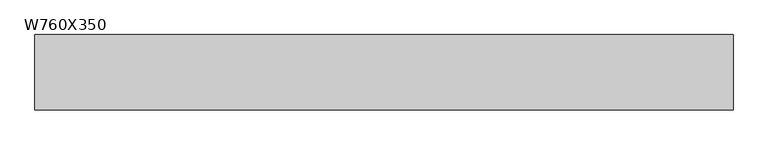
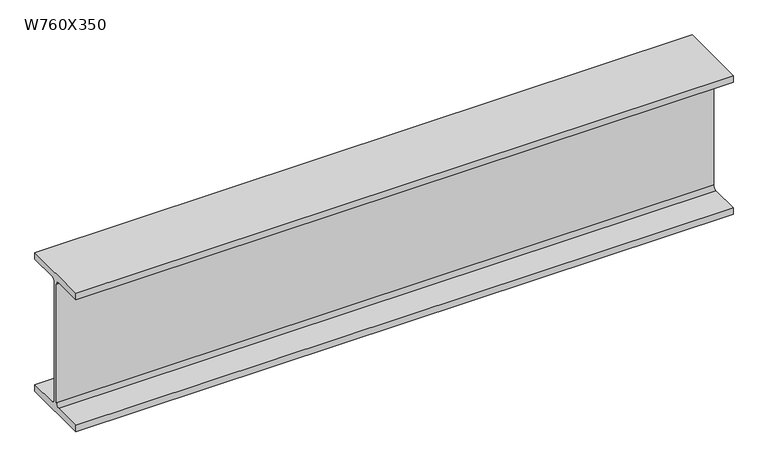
"""IFC4 building model written with IfcOpenShell, lengths in millimetres: beam geometry, M_W Shapes : W760X350."""

import ifcopenshell
import ifcopenshell.guid

model = None  # the IFC model being written
_history = None  # IfcOwnerHistory: only IFC2X3 demands one
_inside = {}  # id of a spatial element -> (the spatial element, [elements in it])
_under = {}  # id of a project, library or spatial element -> (it, [spatial elements below it])
_declared = {}  # id of a project -> (the project, [libraries it declares])
_typed = {}  # id of a type object -> (the type object, [elements of that type])
_made_of = {}  # id of a material, layer set ... -> (it, [elements and type objects made of it])


def new_model(schema):
    """Start an empty IFC model of exactly this schema.

    Asked for "IFC4X3", IfcOpenShell would pick the latest addendum, in which some entities
    have other attributes; the version numbers below select the first issue.
    IFC2X3 requires an IfcOwnerHistory on every rooted entity: one is made here for all.
    """
    global model, _history
    if schema == "IFC4X3":
        model = ifcopenshell.file(schema_version=(4, 3, 0, 0))
    else:
        model = ifcopenshell.file(schema=schema)
    _inside.clear()
    _under.clear()
    _declared.clear()
    _typed.clear()
    _made_of.clear()
    _history = None
    if model.schema == "IFC2X3":
        org = make("IfcOrganization", Name="unknown")
        user = make(
            "IfcPersonAndOrganization",
            ThePerson=make("IfcPerson", FamilyName="unknown"),
            TheOrganization=org,
        )
        app = make(
            "IfcApplication",
            ApplicationDeveloper=org,
            Version="unknown",
            ApplicationFullName="unknown",
            ApplicationIdentifier="unknown",
        )
        _history = make(
            "IfcOwnerHistory",
            OwningUser=user,
            OwningApplication=app,
            ChangeAction="ADDED",
            CreationDate=0,
        )
    return model


def make(cls, **values):
    """One entity of the class cls with the attributes given. An attribute that is None is left unset."""
    return model.create_entity(
        cls, **{name: value for name, value in values.items() if value is not None}
    )


def rooted(cls, **values):
    """An entity with a GlobalId (a new one), such as an element, a storey or a relation."""
    return make(cls, GlobalId=ifcopenshell.guid.new(), OwnerHistory=_history, **values)


def si_unit(unit_type, name, prefix=None):
    """IfcSIUnit, for example si_unit("LENGTHUNIT", "METRE", prefix="MILLI")."""
    return make("IfcSIUnit", UnitType=unit_type, Prefix=prefix, Name=name)


def assignment(units):
    """IfcUnitAssignment: the units of a project."""
    return None if units is None else make("IfcUnitAssignment", Units=units)


def point(xyz):
    """IfcCartesianPoint."""
    return None if xyz is None else make("IfcCartesianPoint", Coordinates=xyz)


def direction(xyz):
    """IfcDirection."""
    return None if xyz is None else make("IfcDirection", DirectionRatios=xyz)


def frame(location, z_axis=None, x_axis=None):
    """IfcAxis2Placement3D, a coordinate frame: its origin and axes. An axis left out is left unset."""
    return make(
        "IfcAxis2Placement3D",
        Location=point(location),
        Axis=direction(z_axis),
        RefDirection=direction(x_axis),
    )


def frame_2d(location, x_axis=None):
    """IfcAxis2Placement2D, a coordinate frame in the plane: its origin and x axis."""
    return make(
        "IfcAxis2Placement2D", Location=point(location), RefDirection=direction(x_axis)
    )


def origin():
    """The frame at (0, 0, 0) with its axes left unset."""
    return frame((0.0, 0.0, 0.0))


def place(relative_to, where):
    """IfcLocalPlacement: puts the frame where relative to a parent placement (None: the world)."""
    return make(
        "IfcLocalPlacement", PlacementRelTo=relative_to, RelativePlacement=where
    )


def context(
    kind, dimensions, precision=None, world=None, true_north=None, identifier=None
):
    """IfcGeometricRepresentationContext, for example the 3D "Model" context."""
    return make(
        "IfcGeometricRepresentationContext",
        ContextIdentifier=identifier,
        ContextType=kind,
        CoordinateSpaceDimension=dimensions,
        Precision=precision,
        WorldCoordinateSystem=world,
        TrueNorth=true_north,
    )


def project(units=None, contexts=None):
    """IfcProject with its units and contexts."""
    return rooted(
        "IfcProject",
        Name="project",
        RepresentationContexts=contexts,
        UnitsInContext=assignment(units),
    )


def spatial(cls, under=None, at=None, **own):
    """A site, building, storey or space (cls), placed at a placement, below another one or the project."""
    s = rooted(cls, ObjectPlacement=at, **own)
    if under is not None:
        _under.setdefault(under.id(), (under, []))[1].append(s)
    return s


def polyline(points):
    """IfcPolyline through the points."""
    return make("IfcPolyline", Points=[point(p) for p in points])


def circle_curve(where, radius):
    """IfcCircle in the frame where."""
    return make("IfcCircle", Position=where, Radius=radius)


def trimmed(basis, trim1, trim2, sense, master):
    """IfcTrimmedCurve: the piece of a basis curve between two trims."""
    return make(
        "IfcTrimmedCurve",
        BasisCurve=basis,
        Trim1=trim1,
        Trim2=trim2,
        SenseAgreement=sense,
        MasterRepresentation=master,
    )


def segment(curve, same_sense, transition):
    """IfcCompositeCurveSegment."""
    return make(
        "IfcCompositeCurveSegment",
        Transition=transition,
        SameSense=same_sense,
        ParentCurve=curve,
    )


def composite_curve(segments, self_intersect=None):
    """IfcCompositeCurve: segments joined end to end."""
    return make("IfcCompositeCurve", Segments=segments, SelfIntersect=self_intersect)


def outline(outer, holes=None, kind="AREA"):
    """IfcArbitraryClosedProfileDef: a profile drawn as a closed curve; with holes, ...WithVoids."""
    if holes is None:
        return make("IfcArbitraryClosedProfileDef", ProfileType=kind, OuterCurve=outer)
    return make(
        "IfcArbitraryProfileDefWithVoids",
        ProfileType=kind,
        OuterCurve=outer,
        InnerCurves=holes,
    )


def extrude(swept, where, along, depth):
    """IfcExtrudedAreaSolid: the profile swept, set in the frame where, extruded along a direction by depth."""
    return make(
        "IfcExtrudedAreaSolid",
        SweptArea=swept,
        Position=where,
        ExtrudedDirection=direction(along),
        Depth=depth,
    )


def shape(context_of_items, identifier, shape_type, items):
    """IfcShapeRepresentation: the items that make up one representation, for example the "Body"."""
    return make(
        "IfcShapeRepresentation",
        ContextOfItems=context_of_items,
        RepresentationIdentifier=identifier,
        RepresentationType=shape_type,
        Items=items,
    )


def source(mapping_origin, context_of_items, identifier, shape_type, items):
    """IfcRepresentationMap: a shape defined once, which mapped items show again and again."""
    return make(
        "IfcRepresentationMap",
        MappingOrigin=mapping_origin,
        MappedRepresentation=shape(context_of_items, identifier, shape_type, items),
    )


def transform(
    local_origin,
    x_axis=None,
    y_axis=None,
    z_axis=None,
    scale=None,
    scale2=None,
    scale3=None,
    uniform=True,
):
    """IfcCartesianTransformationOperator3D, or its non-uniform kind. x_axis, y_axis, z_axis: its Axis1, 2, 3."""
    if uniform:
        return make(
            "IfcCartesianTransformationOperator3D",
            Axis1=direction(x_axis),
            Axis2=direction(y_axis),
            LocalOrigin=point(local_origin),
            Scale=scale,
            Axis3=direction(z_axis),
        )
    return make(
        "IfcCartesianTransformationOperator3DnonUniform",
        Axis1=direction(x_axis),
        Axis2=direction(y_axis),
        LocalOrigin=point(local_origin),
        Scale=scale,
        Axis3=direction(z_axis),
        Scale2=scale2,
        Scale3=scale3,
    )


def mapped(mapping_source, mapping_target):
    """IfcMappedItem: shows the shape of a source again, moved by a transform."""
    return make(
        "IfcMappedItem", MappingSource=mapping_source, MappingTarget=mapping_target
    )


def made_of(thing, what):
    """Note that an element or type object is made of a material, layer set ...; save() writes the relation."""
    if what is not None:
        _made_of.setdefault(what.id(), (what, []))[1].append(thing)
    return thing


def element(
    cls,
    number,
    at=None,
    inside=None,
    cuts=None,
    type_object=None,
    material=None,
    context=None,
    identifier="Body",
    shape_type=None,
    held_by="IfcProductDefinitionShape",
    body=None,
    shapes=None,
    **own,
):
    """One element of the class cls, such as IfcWall. Its Tag is "e" and its number.

    at: its placement. inside: the storey or other place that contains it. cuts: it is an
    opening in that element (IfcRelVoidsElement). A single representation is given by context,
    identifier, shape_type and body (its items); several are given by shapes. held_by: the class
    of the entity that holds the representations. save() writes the other relations.
    """
    e = rooted(cls, Tag="e%d" % number, ObjectPlacement=at, **own)
    if body is not None:
        shapes = [shape(context, identifier, shape_type, body)]
    if shapes is not None:
        e.Representation = make(held_by, Representations=shapes)
    if inside is not None:
        _inside.setdefault(inside.id(), (inside, []))[1].append(e)
    if cuts is not None:
        rooted(
            "IfcRelVoidsElement", RelatingBuildingElement=cuts, RelatedOpeningElement=e
        )
    if type_object is not None:
        _typed.setdefault(type_object.id(), (type_object, []))[1].append(e)
    return made_of(e, material)


def aggregate(whole, parts):
    """IfcRelAggregates: a whole, such as a stair, and the parts it consists of."""
    return rooted("IfcRelAggregates", RelatingObject=whole, RelatedObjects=parts)


def save(model, path):
    """Write the relations noted so far, then the file.

    IfcRelAggregates (storeys below a building ...), IfcRelContainedInSpatialStructure (elements
    in a storey), IfcRelDefinesByType, IfcRelAssociatesMaterial and IfcRelDeclares: one each for
    every whole, place, type object, material and project.
    """
    for whole, parts in _under.values():
        aggregate(whole, parts)
    for where, things in _inside.values():
        rooted(
            "IfcRelContainedInSpatialStructure",
            RelatedElements=things,
            RelatingStructure=where,
        )
    for kind, things in _typed.values():
        rooted("IfcRelDefinesByType", RelatedObjects=things, RelatingType=kind)
    for what, things in _made_of.values():
        rooted("IfcRelAssociatesMaterial", RelatedObjects=things, RelatingMaterial=what)
    for by, libraries in _declared.values():
        rooted("IfcRelDeclares", RelatingContext=by, RelatedDefinitions=libraries)
    model.write(path)


def w760x350_048e1adb(model_context):
    return source(origin(), model_context, "Body", "SweptSolid", [
        extrude(outline(composite_curve([segment(polyline([(192.0, -359.4), (192.0, -397.5), (-192.0, -397.5), (-192.0, -359.4), (-30.65, -359.4)]), True, "CONTINUOUS"), segment(trimmed(circle_curve(frame_2d((-30.65, -339.3)), 20.1), [point((-30.65, -359.4))], [point((-10.55, -339.3))], True, "CARTESIAN"), True, "CONTINUOUS"), segment(polyline([(-10.55, -339.3), (-10.55, 339.3)]), True, "CONTINUOUS"), segment(trimmed(circle_curve(frame_2d((-30.65, 339.3)), 20.1), [point((-10.55, 339.3))], [point((-30.65, 359.4))], True, "CARTESIAN"), True, "CONTINUOUS"), segment(polyline([(-30.65, 359.4), (-192.0, 359.4), (-192.0, 397.5), (192.0, 397.5), (192.0, 359.4), (30.65, 359.4)]), True, "CONTINUOUS"), segment(trimmed(circle_curve(frame_2d((30.65, 339.3)), 20.1), [point((30.65, 359.4))], [point((10.55, 339.3))], True, "CARTESIAN"), True, "CONTINUOUS"), segment(polyline([(10.55, 339.3), (10.55, -339.3)]), True, "CONTINUOUS"), segment(trimmed(circle_curve(frame_2d((30.65, -339.3)), 20.1), [point((10.55, -339.3))], [point((30.65, -359.4))], True, "CARTESIAN"), True, "CONTINUOUS"), segment(polyline([(30.65, -359.4), (192.0, -359.4)]), True, "CONTINUOUS")], self_intersect=False)), frame((-1803.95, 0.0, 0.0), z_axis=(1.0, 0.0, 0.0), x_axis=(0.0, 1.0, 0.0)), (0.0, 0.0, 1.0), 3561.5),
    ])


if __name__ == "__main__":
    model = new_model("IFC4")
    model_context = context("Model", 3, world=origin())
    ifc_project = project(units=[si_unit("LENGTHUNIT", "METRE", prefix="MILLI")], contexts=[model_context])
    site = spatial("IfcSite", under=ifc_project)
    building = spatial("IfcBuilding", under=site)
    placement = place(None, origin())
    w760x350_shape = w760x350_048e1adb(model_context)
    element("IfcBeam", 1, ObjectType="M_W Shapes : W760X350", at=placement, inside=building, context=model_context, shape_type="MappedRepresentation", body=[
        mapped(w760x350_shape, transform((0.0, 0.0, 0.0), x_axis=(1.0, 0.0, 0.0), y_axis=(0.0, 1.0, 0.0), z_axis=(0.0, 0.0, 1.0))),
    ])
    save(model, "model.ifc")
